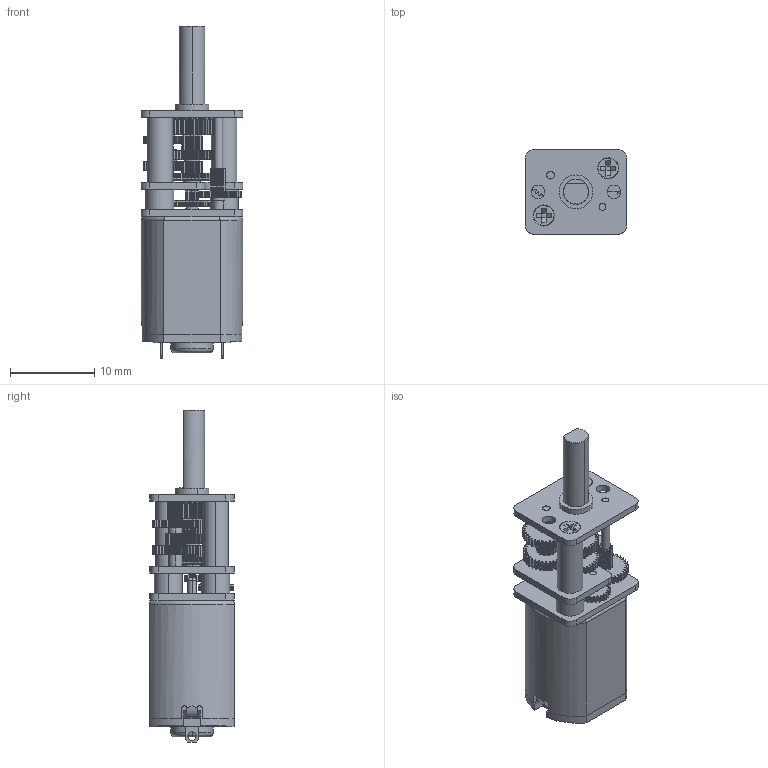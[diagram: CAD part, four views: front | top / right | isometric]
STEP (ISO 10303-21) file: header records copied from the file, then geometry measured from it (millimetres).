
FILE_DESCRIPTION (( 'STEP AP214' ), '1' );
FILE_NAME ('mmgm-1000-1.STEP', '2024-04-24T00:53:48', ( '' ), ( '' ), 'SwSTEP 2.0', 'SolidWorks 2023', '' );
FILE_SCHEMA (( 'AUTOMOTIVE_DESIGN' ));
Length unit declared in the file: inch
Products named in the file (1): mmgm-1000-1
Bounding box: 12 x 10 x 39.3 mm (x, y, z)
Volume: 2220 mm3; surface area: 2491.5 mm2
Topology: 1 solids, 3 shells, 3014 faces, 9004 edges, 6053 vertices
Faces by surface type: cylinder 1704, plane 943, bspline 354, torus 7, cone 6
Entity records: 162582 total; most frequent: CARTESIAN_POINT 53084, ORIENTED_EDGE 18008, DIRECTION 9983, EDGE_CURVE 9004, VERTEX_POINT 6053, B_SPLINE_CURVE_WITH_KNOTS 5660, AXIS2_PLACEMENT_3D 3992, EDGE_LOOP 3117
